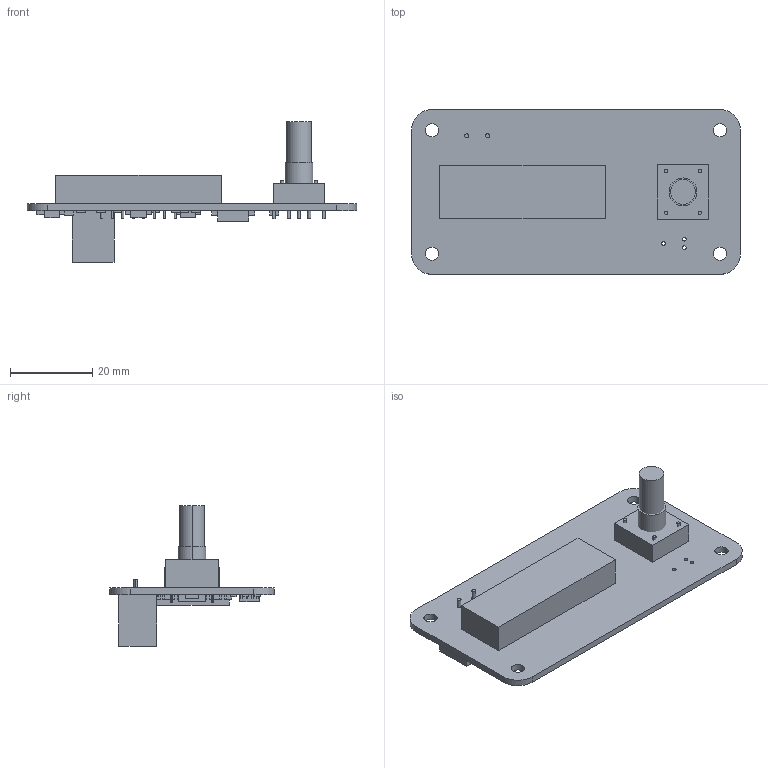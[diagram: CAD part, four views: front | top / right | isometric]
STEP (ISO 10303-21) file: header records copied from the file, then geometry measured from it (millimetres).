
FILE_DESCRIPTION (( 'STEP AP203' ), '1' );
FILE_NAME ('weller_driver_v1.STEP', '2017-02-16T19:21:36', ( '' ), ( '' ), 'SwSTEP 2.0', 'SolidWorks 2016', '' );
FILE_SCHEMA (( 'CONFIG_CONTROL_DESIGN' ));
Length unit declared in the file: millimetre
Products named in the file (1): weller_driver_v1
Bounding box: 80 x 40 x 34.2 mm (x, y, z)
Volume: 12217.3 mm3; surface area: 12282.3 mm2
Topology: 94 solids, 94 shells, 524 faces, 1008 edges, 672 vertices
Faces by surface type: plane 448, cylinder 76
Entity records: 13043 total; most frequent: DIRECTION 2210, CARTESIAN_POINT 2205, ORIENTED_EDGE 2016, EDGE_CURVE 1008, VECTOR 856, LINE 856, AXIS2_PLACEMENT_3D 677, VERTEX_POINT 672
